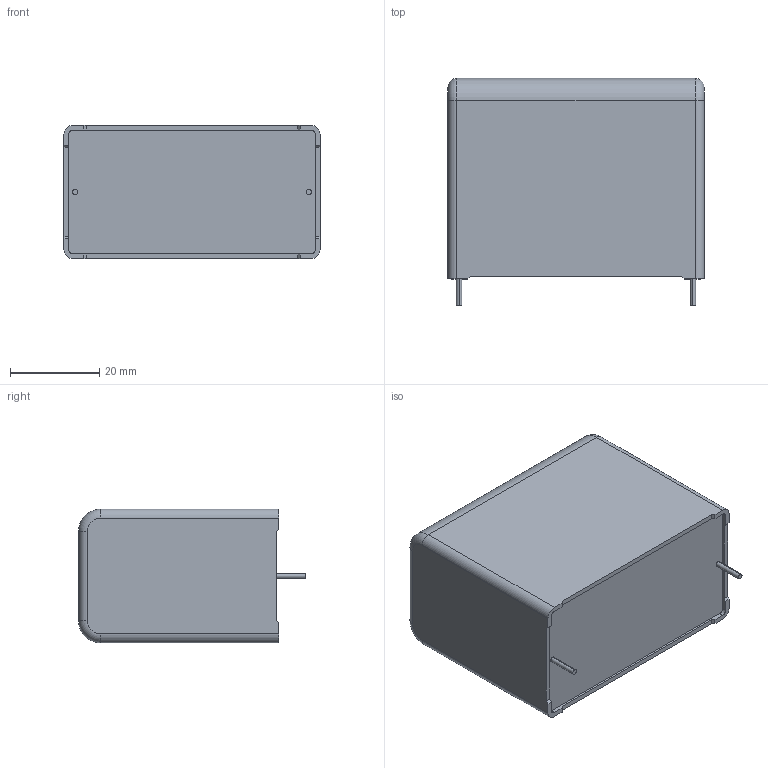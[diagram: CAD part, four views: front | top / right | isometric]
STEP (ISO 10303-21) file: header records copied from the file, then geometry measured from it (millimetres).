
FILE_DESCRIPTION (( 'STEP AP203' ), '1' );
FILE_NAME ('DC_Link_30x45x57.5_2pins.step', '2017-04-03T16:00:07', ( 'work' ), ( 'Hewlett-Packard Company' ), 'SwSTEP 2.0', 'SolidWorks 2017', '' );
FILE_SCHEMA (( 'CONFIG_CONTROL_DESIGN' ));
Length unit declared in the file: millimetre
Products named in the file (1): DC_Link_30x45x57.5_2pins
Bounding box: 57.5 x 51 x 30 mm (x, y, z)
Volume: 75215.5 mm3; surface area: 10935.3 mm2
Topology: 1 solids, 1 shells, 116 faces, 307 edges, 202 vertices
Faces by surface type: plane 80, cylinder 16, bspline 16, torus 4
Entity records: 4332 total; most frequent: CARTESIAN_POINT 1450, ORIENTED_EDGE 614, DIRECTION 513, EDGE_CURVE 307, LINE 239, VECTOR 239, VERTEX_POINT 202, AXIS2_PLACEMENT_3D 137
